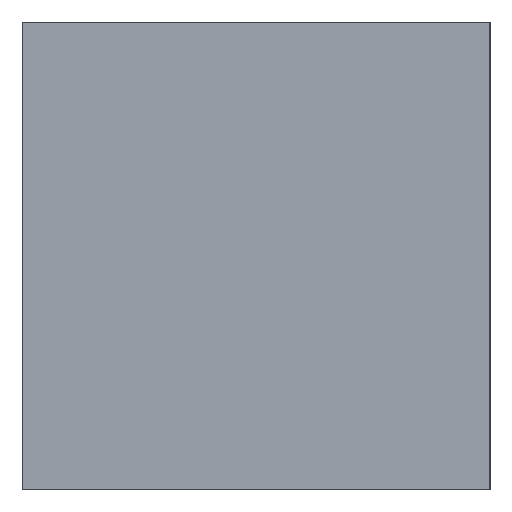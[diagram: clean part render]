
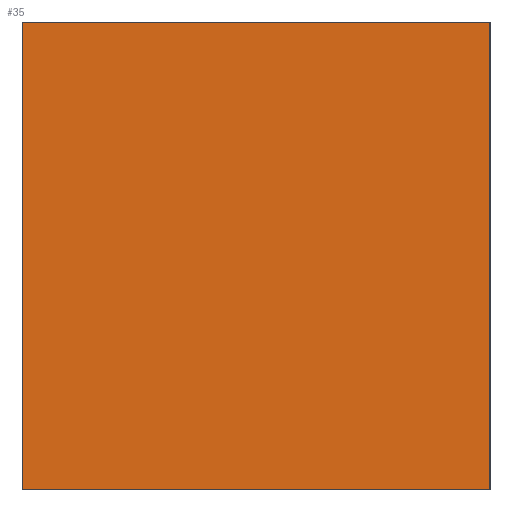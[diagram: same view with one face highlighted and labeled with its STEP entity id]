
A CAD part, left-side view. The second image highlights one B-rep face of the part: STEP entity #35.
In plain terms, the highlighted planar face has unit normal (-1, 0, 0).
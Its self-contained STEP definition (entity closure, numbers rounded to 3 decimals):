
#35 = ADVANCED_FACE('',(#36),#50,.F.);
#36 = FACE_BOUND('',#37,.F.);
#37 = EDGE_LOOP('',(#38,#73,#101,#129));
#38 = ORIENTED_EDGE('',*,*,#39,.F.);
#39 = EDGE_CURVE('',#40,#42,#44,.T.);
#40 = VERTEX_POINT('',#41);
#41 = CARTESIAN_POINT('',(-60.,-10.,0.));
#42 = VERTEX_POINT('',#43);
#43 = CARTESIAN_POINT('',(-60.,-10.,20.));
#44 = SURFACE_CURVE('',#45,(#49,#61),.PCURVE_S1.);
#45 = LINE('',#46,#47);
#46 = CARTESIAN_POINT('',(-60.,-10.,0.));
#47 = VECTOR('',#48,1.);
#48 = DIRECTION('',(0.,0.,1.));
#49 = PCURVE('',#50,#55);
#50 = PLANE('',#51);
#51 = AXIS2_PLACEMENT_3D('',#52,#53,#54);
#52 = CARTESIAN_POINT('',(-60.,-10.,0.));
#53 = DIRECTION('',(1.,0.,0.));
#54 = DIRECTION('',(0.,0.,1.));
#55 = DEFINITIONAL_REPRESENTATION('',(#56),#60);
#56 = LINE('',#57,#58);
#57 = CARTESIAN_POINT('',(0.,0.));
#58 = VECTOR('',#59,1.);
#59 = DIRECTION('',(1.,0.));
#60 = ( GEOMETRIC_REPRESENTATION_CONTEXT(2) 
PARAMETRIC_REPRESENTATION_CONTEXT() REPRESENTATION_CONTEXT('2D SPACE',''
  ) );
#61 = PCURVE('',#62,#67);
#62 = PLANE('',#63);
#63 = AXIS2_PLACEMENT_3D('',#64,#65,#66);
#64 = CARTESIAN_POINT('',(-60.,-10.,0.));
#65 = DIRECTION('',(0.,1.,0.));
#66 = DIRECTION('',(0.,0.,1.));
#67 = DEFINITIONAL_REPRESENTATION('',(#68),#72);
#68 = LINE('',#69,#70);
#69 = CARTESIAN_POINT('',(0.,0.));
#70 = VECTOR('',#71,1.);
#71 = DIRECTION('',(1.,0.));
#72 = ( GEOMETRIC_REPRESENTATION_CONTEXT(2) 
PARAMETRIC_REPRESENTATION_CONTEXT() REPRESENTATION_CONTEXT('2D SPACE',''
  ) );
#73 = ORIENTED_EDGE('',*,*,#74,.T.);
#74 = EDGE_CURVE('',#40,#75,#77,.T.);
#75 = VERTEX_POINT('',#76);
#76 = CARTESIAN_POINT('',(-60.,10.,0.));
#77 = SURFACE_CURVE('',#78,(#82,#89),.PCURVE_S1.);
#78 = LINE('',#79,#80);
#79 = CARTESIAN_POINT('',(-60.,-10.,0.));
#80 = VECTOR('',#81,1.);
#81 = DIRECTION('',(0.,1.,0.));
#82 = PCURVE('',#50,#83);
#83 = DEFINITIONAL_REPRESENTATION('',(#84),#88);
#84 = LINE('',#85,#86);
#85 = CARTESIAN_POINT('',(0.,0.));
#86 = VECTOR('',#87,1.);
#87 = DIRECTION('',(0.,-1.));
#88 = ( GEOMETRIC_REPRESENTATION_CONTEXT(2) 
PARAMETRIC_REPRESENTATION_CONTEXT() REPRESENTATION_CONTEXT('2D SPACE',''
  ) );
#89 = PCURVE('',#90,#95);
#90 = PLANE('',#91);
#91 = AXIS2_PLACEMENT_3D('',#92,#93,#94);
#92 = CARTESIAN_POINT('',(-60.,-10.,0.));
#93 = DIRECTION('',(0.,0.,1.));
#94 = DIRECTION('',(1.,0.,0.));
#95 = DEFINITIONAL_REPRESENTATION('',(#96),#100);
#96 = LINE('',#97,#98);
#97 = CARTESIAN_POINT('',(0.,0.));
#98 = VECTOR('',#99,1.);
#99 = DIRECTION('',(0.,1.));
#100 = ( GEOMETRIC_REPRESENTATION_CONTEXT(2) 
PARAMETRIC_REPRESENTATION_CONTEXT() REPRESENTATION_CONTEXT('2D SPACE',''
  ) );
#101 = ORIENTED_EDGE('',*,*,#102,.T.);
#102 = EDGE_CURVE('',#75,#103,#105,.T.);
#103 = VERTEX_POINT('',#104);
#104 = CARTESIAN_POINT('',(-60.,10.,20.));
#105 = SURFACE_CURVE('',#106,(#110,#117),.PCURVE_S1.);
#106 = LINE('',#107,#108);
#107 = CARTESIAN_POINT('',(-60.,10.,0.));
#108 = VECTOR('',#109,1.);
#109 = DIRECTION('',(0.,0.,1.));
#110 = PCURVE('',#50,#111);
#111 = DEFINITIONAL_REPRESENTATION('',(#112),#116);
#112 = LINE('',#113,#114);
#113 = CARTESIAN_POINT('',(0.,-20.));
#114 = VECTOR('',#115,1.);
#115 = DIRECTION('',(1.,0.));
#116 = ( GEOMETRIC_REPRESENTATION_CONTEXT(2) 
PARAMETRIC_REPRESENTATION_CONTEXT() REPRESENTATION_CONTEXT('2D SPACE',''
  ) );
#117 = PCURVE('',#118,#123);
#118 = PLANE('',#119);
#119 = AXIS2_PLACEMENT_3D('',#120,#121,#122);
#120 = CARTESIAN_POINT('',(-60.,10.,0.));
#121 = DIRECTION('',(0.,1.,0.));
#122 = DIRECTION('',(0.,0.,1.));
#123 = DEFINITIONAL_REPRESENTATION('',(#124),#128);
#124 = LINE('',#125,#126);
#125 = CARTESIAN_POINT('',(0.,0.));
#126 = VECTOR('',#127,1.);
#127 = DIRECTION('',(1.,0.));
#128 = ( GEOMETRIC_REPRESENTATION_CONTEXT(2) 
PARAMETRIC_REPRESENTATION_CONTEXT() REPRESENTATION_CONTEXT('2D SPACE',''
  ) );
#129 = ORIENTED_EDGE('',*,*,#130,.F.);
#130 = EDGE_CURVE('',#42,#103,#131,.T.);
#131 = SURFACE_CURVE('',#132,(#136,#143),.PCURVE_S1.);
#132 = LINE('',#133,#134);
#133 = CARTESIAN_POINT('',(-60.,-10.,20.));
#134 = VECTOR('',#135,1.);
#135 = DIRECTION('',(0.,1.,0.));
#136 = PCURVE('',#50,#137);
#137 = DEFINITIONAL_REPRESENTATION('',(#138),#142);
#138 = LINE('',#139,#140);
#139 = CARTESIAN_POINT('',(20.,0.));
#140 = VECTOR('',#141,1.);
#141 = DIRECTION('',(0.,-1.));
#142 = ( GEOMETRIC_REPRESENTATION_CONTEXT(2) 
PARAMETRIC_REPRESENTATION_CONTEXT() REPRESENTATION_CONTEXT('2D SPACE',''
  ) );
#143 = PCURVE('',#144,#149);
#144 = PLANE('',#145);
#145 = AXIS2_PLACEMENT_3D('',#146,#147,#148);
#146 = CARTESIAN_POINT('',(-60.,-10.,20.));
#147 = DIRECTION('',(0.,0.,1.));
#148 = DIRECTION('',(1.,0.,0.));
#149 = DEFINITIONAL_REPRESENTATION('',(#150),#154);
#150 = LINE('',#151,#152);
#151 = CARTESIAN_POINT('',(0.,0.));
#152 = VECTOR('',#153,1.);
#153 = DIRECTION('',(0.,1.));
#154 = ( GEOMETRIC_REPRESENTATION_CONTEXT(2) 
PARAMETRIC_REPRESENTATION_CONTEXT() REPRESENTATION_CONTEXT('2D SPACE',''
  ) );
